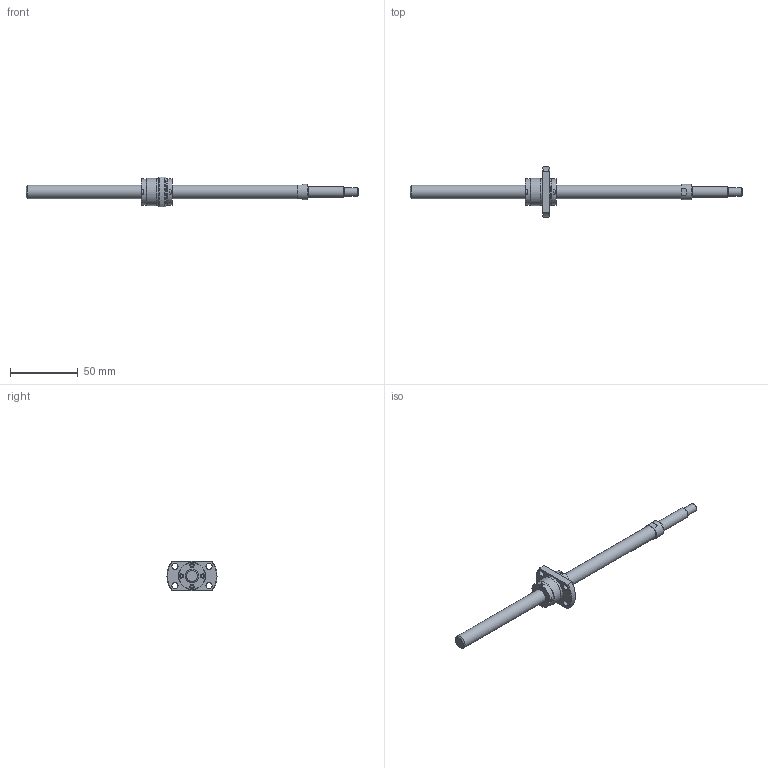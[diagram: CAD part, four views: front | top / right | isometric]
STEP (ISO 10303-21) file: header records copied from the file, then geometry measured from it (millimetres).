
FILE_DESCRIPTION(/* description */ ('STEP AP214'),/* implementation_level */ '2;1');
FILE_NAME(/* name */ 'SRT1020-196R245C7A0X(85Processing)',/* time_stamp */ '2026-08-06T15:11:51+02:00',/* author */ ('License CC BY-ND 4.0'),/* organization */ ('CADENAS'),/* preprocessor_version */ 'ST-DEVELOPER v20',/* originating_system */ 'PARTsolutions',/* authorisation */ ' ');
FILE_SCHEMA (('AUTOMOTIVE_DESIGN {1 0 10303 214 3 1 1}'));
Length unit declared in the file: millimetre
Products named in the file (3): SRT1020-196R245C7A0X(85Processing); SRT1020-196R270ACt7Processing73Shaft; SRT1020Nut
Assembly tree (2 placements, depth 2):
  SRT1020-196R245C7A0X(85Processing)
    SRT1020-196R270ACt7Processing73Shaft
    SRT1020Nut
Bounding box: 245 x 37 x 22 mm (x, y, z)
Volume: 25220.6 mm3; surface area: 11719.3 mm2
Topology: 2 solids, 2 shells, 150 faces, 360 edges, 236 vertices
Faces by surface type: plane 106, cylinder 32, cone 11, torus 1
Full cylindrical faces by diameter (mm): 3 x8, 4.5 x4, 6 x1, 8 x1, 10 x2, 11.5 x1, 19.5 x3, 20 x2
Entity records: 4267 total; most frequent: CARTESIAN_POINT 737, DIRECTION 718, ORIENTED_EDGE 654, EDGE_CURVE 327, AXIS2_PLACEMENT_3D 246, VERTEX_POINT 233, LINE 226, VECTOR 226
